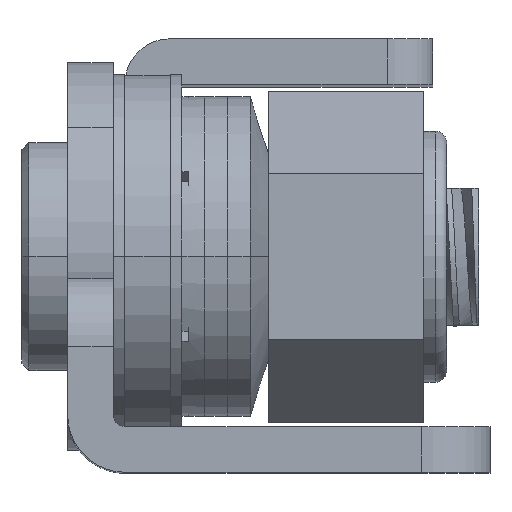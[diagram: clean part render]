
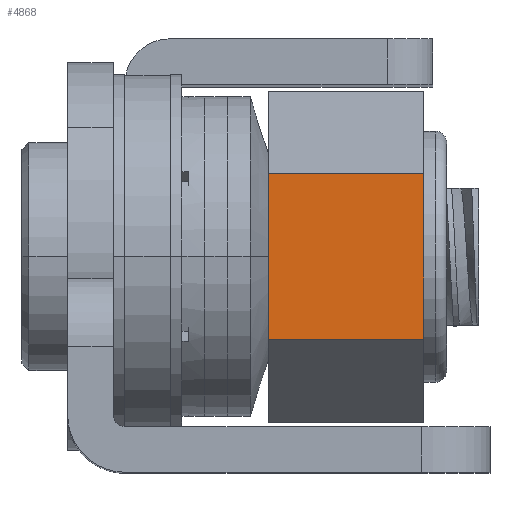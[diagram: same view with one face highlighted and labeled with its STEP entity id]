
A CAD part, top view. The second image highlights one B-rep face of the part: STEP entity #4868.
In plain terms, the highlighted planar face has unit normal (0, 0, 1).
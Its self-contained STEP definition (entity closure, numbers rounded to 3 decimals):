
#52 = DIRECTION ( 'NONE',  ( 0., -1., 0. ) ) ;
#58 = VECTOR ( 'NONE', #4286, 1000. ) ;
#110 = VECTOR ( 'NONE', #297, 1000. ) ;
#297 = DIRECTION ( 'NONE',  ( 0., -1., 0. ) ) ;
#329 = CARTESIAN_POINT ( 'NONE',  ( 15.649, 5.924, -26.721 ) ) ;
#358 = ORIENTED_EDGE ( 'NONE', *, *, #7588, .T. ) ;
#1131 = VECTOR ( 'NONE', #2337, 1000. ) ;
#1300 = CARTESIAN_POINT ( 'NONE',  ( 8.849, 13.174, -26.721 ) ) ;
#1821 = DIRECTION ( 'NONE',  ( 1., 0., 0. ) ) ;
#1921 = DIRECTION ( 'NONE',  ( 0., 0., 1. ) ) ;
#1953 = VERTEX_POINT ( 'NONE', #2803 ) ;
#2087 = PLANE ( 'NONE',  #4471 ) ;
#2231 = LINE ( 'NONE', #4711, #1131 ) ;
#2337 = DIRECTION ( 'NONE',  ( 1., 0., 0. ) ) ;
#2751 = FACE_OUTER_BOUND ( 'NONE', #5266, .T. ) ;
#2803 = CARTESIAN_POINT ( 'NONE',  ( 8.849, 5.924, -26.721 ) ) ;
#3060 = VECTOR ( 'NONE', #1821, 1000. ) ;
#3512 = LINE ( 'NONE', #7506, #58 ) ;
#4051 = ORIENTED_EDGE ( 'NONE', *, *, #10555, .F. ) ;
#4188 = ORIENTED_EDGE ( 'NONE', *, *, #6140, .F. ) ;
#4286 = DIRECTION ( 'NONE',  ( 0., -1., 0. ) ) ;
#4471 = AXIS2_PLACEMENT_3D ( 'NONE', #5286, #1921, #52 ) ;
#4711 = CARTESIAN_POINT ( 'NONE',  ( 8.849, 13.174, -26.721 ) ) ;
#4868 = ADVANCED_FACE ( 'NONE', ( #2751 ), #2087, .T. ) ;
#4875 = CARTESIAN_POINT ( 'NONE',  ( 15.649, 13.174, -26.721 ) ) ;
#4924 = EDGE_CURVE ( 'NONE', #8437, #1953, #3512, .T. ) ;
#5138 = LINE ( 'NONE', #6702, #3060 ) ;
#5266 = EDGE_LOOP ( 'NONE', ( #358, #4051, #4188, #5267 ) ) ;
#5267 = ORIENTED_EDGE ( 'NONE', *, *, #4924, .T. ) ;
#5286 = CARTESIAN_POINT ( 'NONE',  ( 8.849, 13.174, -26.721 ) ) ;
#6140 = EDGE_CURVE ( 'NONE', #8437, #6189, #2231, .T. ) ;
#6156 = CARTESIAN_POINT ( 'NONE',  ( 15.649, 13.174, -26.721 ) ) ;
#6189 = VERTEX_POINT ( 'NONE', #4875 ) ;
#6513 = VERTEX_POINT ( 'NONE', #329 ) ;
#6702 = CARTESIAN_POINT ( 'NONE',  ( 8.849, 5.924, -26.721 ) ) ;
#7047 = LINE ( 'NONE', #6156, #110 ) ;
#7506 = CARTESIAN_POINT ( 'NONE',  ( 8.849, 13.174, -26.721 ) ) ;
#7588 = EDGE_CURVE ( 'NONE', #1953, #6513, #5138, .T. ) ;
#8437 = VERTEX_POINT ( 'NONE', #1300 ) ;
#10555 = EDGE_CURVE ( 'NONE', #6189, #6513, #7047, .T. ) ;
